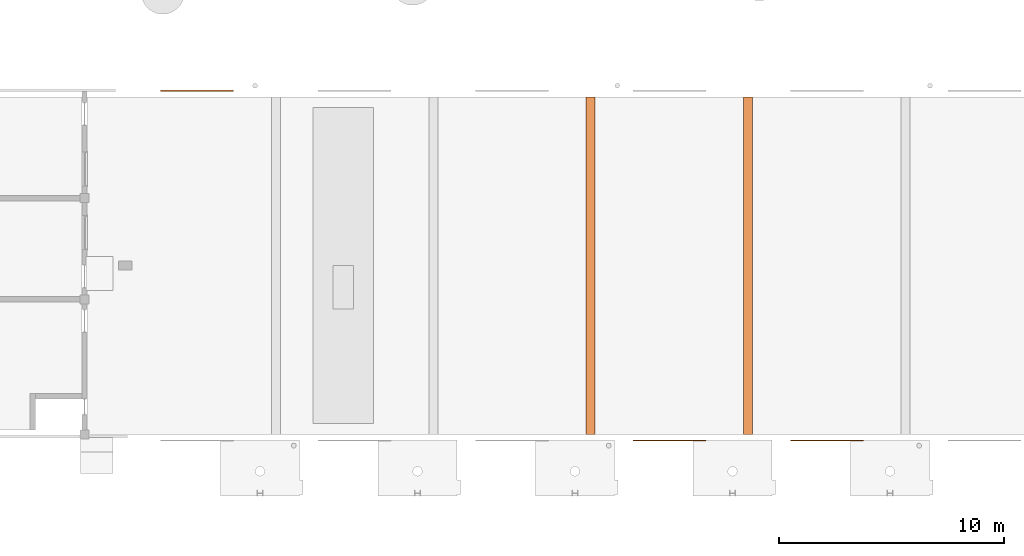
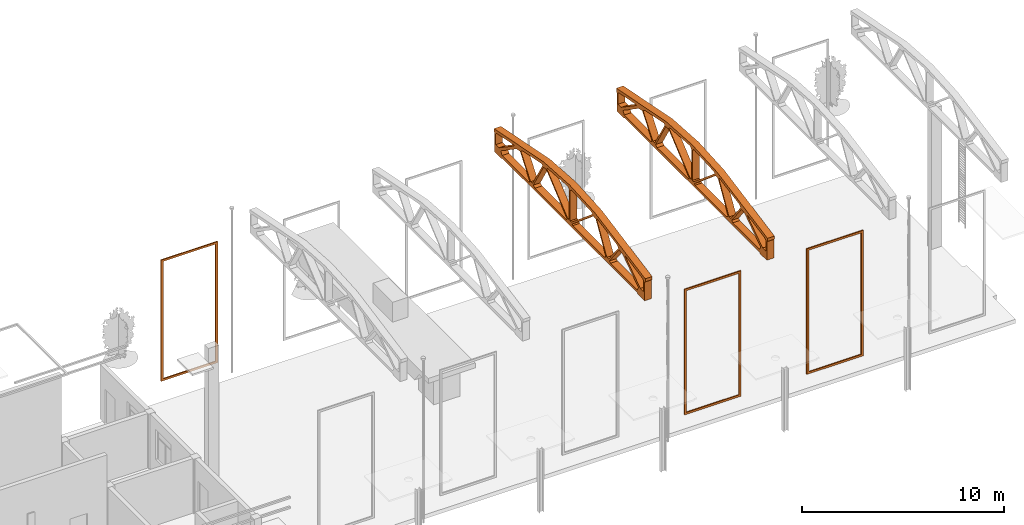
# One storey, part 9 of 14: 5 proxies.
"""IFC2X3 building model written with IfcOpenShell, lengths in millimetres."""

from ifc_helpers import new_model, entity, si_unit, converted_unit, derived_unit, direction, frame, origin, place, context, subcontext, project, spatial, polyline, outline, extrude, source, transform, mapped, material, type_object, type_shapes, element, save


model = new_model("IFC2X3")

# Units and contexts
model_context = context("Model", 3, precision=0.01, world=origin(), true_north=direction((6.12303176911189e-17, 1.0)))
body_context = subcontext(model_context, "Body", "Model", "MODEL_VIEW")
ifc_project = project(units=[si_unit("LENGTHUNIT", "METRE", prefix="MILLI"), si_unit("AREAUNIT", "SQUARE_METRE"), si_unit("VOLUMEUNIT", "CUBIC_METRE"), converted_unit("PLANEANGLEUNIT", "DEGREE", entity("IfcRatioMeasure", 0.0174532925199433), si_unit("PLANEANGLEUNIT", "RADIAN"), dimensions=[0, 0, 0, 0, 0, 0, 0]), si_unit("MASSUNIT", "GRAM", prefix="KILO"), derived_unit("MASSDENSITYUNIT", [(si_unit("MASSUNIT", "GRAM", prefix="KILO"), 1), (si_unit("LENGTHUNIT", "METRE"), -3)]), si_unit("TIMEUNIT", "SECOND"), si_unit("FREQUENCYUNIT", "HERTZ"), si_unit("THERMODYNAMICTEMPERATUREUNIT", "DEGREE_CELSIUS"), derived_unit("THERMALTRANSMITTANCEUNIT", [(si_unit("MASSUNIT", "GRAM", prefix="KILO"), 1), (si_unit("THERMODYNAMICTEMPERATUREUNIT", "KELVIN"), -1), (si_unit("TIMEUNIT", "SECOND"), -3)]), derived_unit("VOLUMETRICFLOWRATEUNIT", [(si_unit("LENGTHUNIT", "METRE"), 3), (si_unit("TIMEUNIT", "SECOND"), -1)]), si_unit("ELECTRICCURRENTUNIT", "AMPERE"), si_unit("ELECTRICVOLTAGEUNIT", "VOLT"), si_unit("POWERUNIT", "WATT"), si_unit("FORCEUNIT", "NEWTON", prefix="KILO"), si_unit("ILLUMINANCEUNIT", "LUX"), si_unit("LUMINOUSFLUXUNIT", "LUMEN"), si_unit("LUMINOUSINTENSITYUNIT", "CANDELA"), derived_unit("USERDEFINED", [(si_unit("MASSUNIT", "GRAM", prefix="KILO"), -1), (si_unit("LENGTHUNIT", "METRE"), -2), (si_unit("TIMEUNIT", "SECOND"), 3), (si_unit("LUMINOUSFLUXUNIT", "LUMEN"), 1)]), derived_unit("LINEARVELOCITYUNIT", [(si_unit("LENGTHUNIT", "METRE"), 1), (si_unit("TIMEUNIT", "SECOND"), -1)]), si_unit("PRESSUREUNIT", "PASCAL"), derived_unit("USERDEFINED", [(si_unit("LENGTHUNIT", "METRE"), -2), (si_unit("MASSUNIT", "GRAM", prefix="KILO"), 1), (si_unit("TIMEUNIT", "SECOND"), -2)])], contexts=[model_context])

# Site, building, storey
site_placement = place(None, origin())
site = spatial("IfcSite", under=ifc_project, at=site_placement, Name="表面", CompositionType="ELEMENT")
building_placement = place(site_placement, origin())
building = spatial("IfcBuilding", under=site, at=building_placement, CompositionType="ELEMENT")
storey_placement = place(building_placement, origin())
storey = spatial("IfcBuildingStorey", under=building, at=storey_placement, Name="±0.000", CompositionType="ELEMENT", Elevation=0.0)

# Proxies
ifc_material_1 = material(Name="钢架")
building_element_proxy_type_1 = type_object("IfcBuildingElementProxyType", Name="钢架", PredefinedType="NOTDEFINED", material=ifc_material_1)
shared_shape_1 = source(origin(), body_context, "Body", "SweptSolid", [
    extrude(outline(polyline([(5365.60494768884, -5157.24800747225), (5456.9902216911, -5157.24800747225), (5582.8288750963, -5031.40935406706), (2734.74006467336, -808.944048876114), (1081.02925071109, 1073.38849692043), (-860.892399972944, 2779.45092503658), (-5023.76860027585, 5575.18812130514), (-5150.98625221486, 5447.97046936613), (-5149.60725368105, 5357.96419389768), (-5944.34309586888, 4563.22835170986), (-5473.86453543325, 4092.74979127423), (-5388.04612413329, 4092.74979127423), (4099.05525115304, -5394.35158401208), (4100.39054506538, -5481.50528922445), (4570.86910550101, -5951.98384966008), (5365.60494768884, -5157.24800747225)]), holes=[polyline([(2080.17644422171, -3019.41582292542), (1903.3815773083, -2969.47962047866), (-312.516618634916, -753.581424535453), (-307.696571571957, -667.767979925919), (2405.15225183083, -902.84956055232), (2566.25060345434, -1105.85622888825), (2080.17644422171, -3019.41582292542)]), polyline([(2410.67898297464, -804.454704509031), (-302.169840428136, -569.37312388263), (-396.501496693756, -475.041467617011), (895.303368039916, 816.763397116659), (1071.52445367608, 814.063489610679), (2415.65365014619, -715.888489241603), (2410.67898297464, -804.454704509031)]), polyline([(824.404150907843, 887.662614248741), (-467.400713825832, -404.142250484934), (-561.732370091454, -309.810594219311), (-796.813950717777, 2403.03822918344), (-708.247735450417, 2408.01289635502), (821.704243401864, 1063.8836998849), (824.404150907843, 887.662614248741)]), polyline([(-660.127226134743, -315.337325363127), (-745.940670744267, -320.157372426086), (-2961.8388666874, 1895.74082351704), (-3011.7750691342, 2072.53569043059), (-1098.215475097, 2558.60984966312), (-895.208806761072, 2397.5114980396), (-660.127226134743, -315.337325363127)]), polyline([(-1125.26669554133, 2654.38238910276), (-3038.8262895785, 2168.30822987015), (-3165.92863425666, 2295.41057454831), (-2966.18860298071, 3866.5253133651), (-2759.14425623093, 3833.98711637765), (-1152.70066928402, 2751.5100339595), (-1125.26669554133, 2654.38238910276)]), polyline([(5310.14502256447, -4946.12903504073), (5311.96128515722, -5064.67523160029), (4848.72490296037, -5527.91161379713), (4627.03739614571, -5306.22410698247), (4284.43096880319, -3510.00639039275), (4336.75773352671, -3501.57949816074), (5310.14502256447, -4946.12903504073)]), polyline([(4444.43004158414, -5222.45135972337), (4211.00422062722, -5277.1022637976), (2339.5189258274, -3405.61696899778), (2318.4499702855, -3271.55274477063), (3889.56470910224, -3071.8127134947), (4090.0993156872, -3364.76546537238), (4444.43004158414, -5222.45135972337)]), polyline([(3874.16606715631, -2973.82935677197), (2303.05132833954, -3173.5693880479), (2175.94898366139, -3046.46704336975), (2662.02314289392, -1132.90744933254), (2758.82600220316, -1160.24968649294), (3841.37881299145, -2765.20023012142), (3874.16606715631, -2973.82935677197)]), polyline([(-3263.91199097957, 2310.80921649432), (-3397.97621520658, 2331.87817203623), (-5269.4615100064, 4203.36346683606), (-5214.8106059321, 4436.78928779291), (-3357.12471158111, 4082.45856189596), (-3064.17195970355, 3881.92395531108), (-3263.91199097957, 2310.80921649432)]), polyline([(-3502.36563660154, 4276.79021501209), (-5298.58335319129, 4619.39664235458), (-5520.27086000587, 4841.08414916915), (-5057.03447780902, 5304.32053136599), (-4938.48828124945, 5302.50426877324), (-3493.93874436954, 4329.11697973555), (-3502.36563660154, 4276.79021501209)])]), frame((414.00813522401, -400.0, 976.595601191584), z_axis=(0.0, 1.0, 0.0), x_axis=(-0.707106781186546, 0.0, 0.707106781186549)), (0.0, 0.0, 1.0), 400.0),
])
type_shapes(building_element_proxy_type_1, [shared_shape_1])
for number, where, z_axis, x_axis in (
    (1, (-11228.798781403, 7701.08910112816, 8500.0), (0.0, 0.0, 1.0), (0.0, 1.0, 0.0)),
    (2, (-4228.79878140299, 7701.08910112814, 8500.0), (0.0, 0.0, 1.0), (0.0, 1.0, 0.0)),
):
    element("IfcBuildingElementProxy", number, at=place(storey_placement, frame(where, z_axis=z_axis, x_axis=x_axis)), inside=storey, type_object=building_element_proxy_type_1, material=ifc_material_1, Name="钢架:钢架", ObjectType="钢架", context=body_context, shape_type="MappedRepresentation", body=[
        mapped(shared_shape_1, transform((0.0, 0.0, 0.0), scale=1.0)),
    ])
ifc_material_2 = material(Name="砖石建筑 - 瓷砖")
building_element_proxy_type_2 = type_object("IfcBuildingElementProxyType", Name="3mX7360", PredefinedType="NOTDEFINED", material=ifc_material_2)
shared_shape_2 = source(origin(), body_context, "Body", "SweptSolid", [
    extrude(outline(polyline([(-1620.0, -3800.0), (1620.0, -3800.0), (1620.0, 3800.0), (-1620.0, 3800.0), (-1620.0, -3800.0)]), holes=[polyline([(-1500.0, -3680.0), (-1500.0, 3680.0), (1500.0, 3680.0), (1500.0, -3680.0), (-1500.0, -3680.0)])]), frame((125.0, 120.0, 4159.66314124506), z_axis=(0.0, 1.0, 0.0), x_axis=(1.0, 0.0, 0.0)), (0.0, 0.0, 1.0), 60.0),
])
type_shapes(building_element_proxy_type_2, [shared_shape_2])
proxy_1_placement = place(storey_placement, frame((-403.798781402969, 489.697407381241, 720.336858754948), z_axis=(0.0, 0.0, 1.0), x_axis=(-1.0, 0.0, 0.0)))
element("IfcBuildingElementProxy", 3, at=proxy_1_placement, inside=storey, type_object=building_element_proxy_type_2, material=ifc_material_2, Name="基于墙的墙面装饰:3mX7360", ObjectType="3mX7360", context=body_context, shape_type="MappedRepresentation", body=[
    mapped(shared_shape_2, transform((0.0, 0.0, 0.0), scale=1.0)),
])
building_element_proxy_type_3 = type_object("IfcBuildingElementProxyType", Name="3mX7360", PredefinedType="NOTDEFINED", material=ifc_material_2)
shared_shape_3 = source(origin(), body_context, "Body", "SweptSolid", [
    extrude(outline(polyline([(-1620.0, -3800.0), (1620.0, -3800.0), (1620.0, 3800.0), (-1620.0, 3800.0), (-1620.0, -3800.0)]), holes=[polyline([(-1500.0, -3680.0), (-1500.0, 3680.0), (1500.0, 3680.0), (1500.0, -3680.0), (-1500.0, -3680.0)])]), frame((125.0, -180.0, 4159.66314124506), z_axis=(0.0, 1.0, 0.0), x_axis=(1.0, 0.0, 0.0)), (0.0, 0.0, 1.0), 60.0),
])
type_shapes(building_element_proxy_type_3, [shared_shape_3])
proxy_2_placement = place(storey_placement, frame((-7653.79878140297, 489.697407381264, 720.336858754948)))
element("IfcBuildingElementProxy", 4, at=proxy_2_placement, inside=storey, type_object=building_element_proxy_type_3, material=ifc_material_2, Name="基于墙的墙面装饰:3mX7360", ObjectType="3mX7360", context=body_context, shape_type="MappedRepresentation", body=[
    mapped(shared_shape_3, transform((0.0, 0.0, 0.0), scale=1.0)),
])
building_element_proxy_type_4 = type_object("IfcBuildingElementProxyType", Name="3mX7100", PredefinedType="NOTDEFINED", material=ifc_material_2)
shared_shape_4 = source(origin(), body_context, "Body", "SweptSolid", [
    extrude(outline(polyline([(-1620.0, -3670.0), (1620.0, -3670.0), (1620.0, 3670.0), (-1620.0, 3670.0), (-1620.0, -3670.0)]), holes=[polyline([(-1500.0, -3550.0), (-1500.0, 3550.0), (1500.0, 3550.0), (1500.0, -3550.0), (-1500.0, -3550.0)])]), frame((125.0, -180.0, 4029.66314124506), z_axis=(0.0, 1.0, 0.0), x_axis=(1.0, 0.0, 0.0)), (0.0, 0.0, 1.0), 60.0),
])
type_shapes(building_element_proxy_type_4, [shared_shape_4])
proxy_3_placement = place(storey_placement, frame((-28403.7987814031, 15729.6974073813, 680.336858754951), z_axis=(0.0, 0.0, 1.0), x_axis=(-1.0, 0.0, 0.0)))
element("IfcBuildingElementProxy", 5, at=proxy_3_placement, inside=storey, type_object=building_element_proxy_type_4, material=ifc_material_2, Name="基于墙的墙面装饰:3mX7100", ObjectType="3mX7100", context=body_context, shape_type="MappedRepresentation", body=[
    mapped(shared_shape_4, transform((0.0, 0.0, 0.0), scale=1.0)),
])

save(model, "model.ifc")
